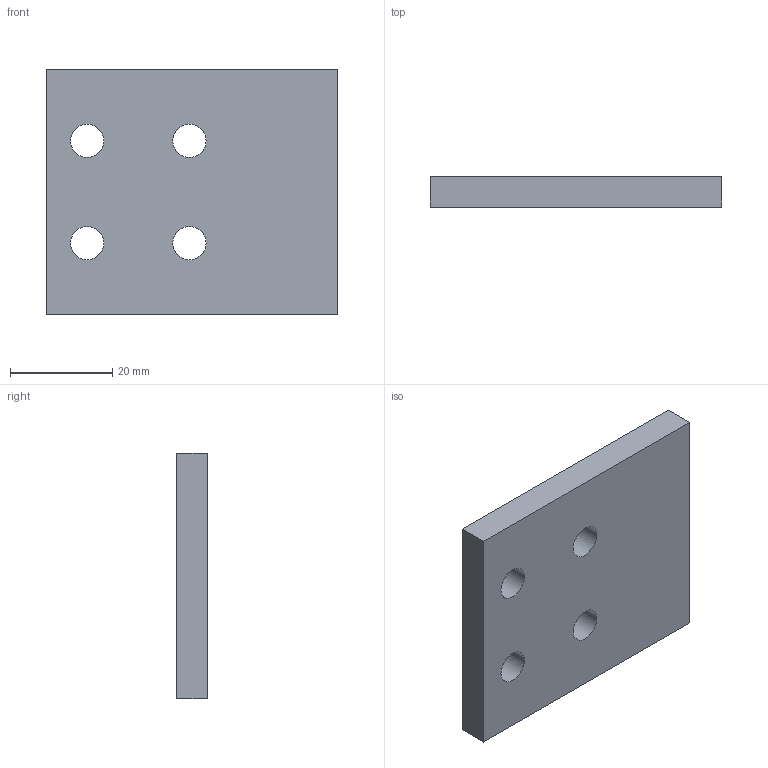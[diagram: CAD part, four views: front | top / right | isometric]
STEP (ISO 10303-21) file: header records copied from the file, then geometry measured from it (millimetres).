
FILE_DESCRIPTION( ( '' ), '1' );
FILE_NAME( 'E:/04 嬴檜蠱滌/0404 ZIMMER/040414 ZIMMER CAD download/Adapt plate/PLK for LKP, LKPS/PLK25-6.stp', '2020-04-16T10:19:44', ( '' ), ( '' ), ' ', ' ', ' ' );
FILE_SCHEMA( ( 'automotive_design' ) );
Length unit declared in the file: millimetre
Products named in the file (1): 1
Bounding box: 57 x 6 x 48 mm (x, y, z)
Volume: 15619.6 mm3; surface area: 6956.6 mm2
Topology: 1 solids, 1 shells, 14 faces, 36 edges, 24 vertices
Faces by surface type: cylinder 8, plane 6
Entity records: 888 total; most frequent: DIRECTION 82, STYLED_ITEM 75, PRESENTATION_STYLE_ASSIGNMENT 75, CARTESIAN_POINT 75, COLOUR_RGB 75, ORIENTED_EDGE 72, EDGE_CURVE 36, CURVE_STYLE 36
